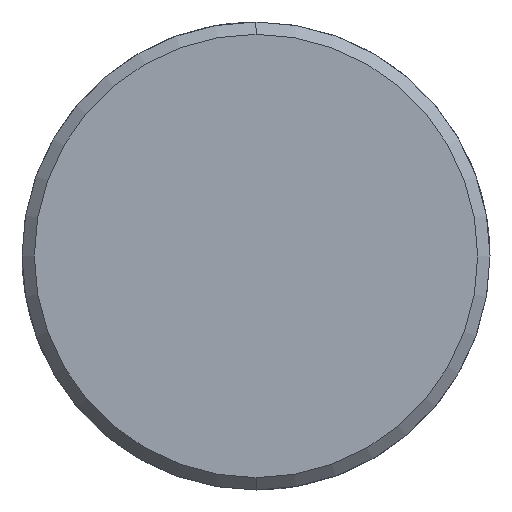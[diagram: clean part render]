
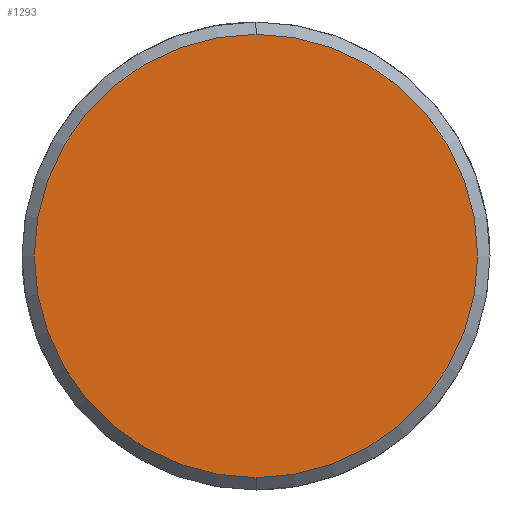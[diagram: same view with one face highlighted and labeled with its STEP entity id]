
A CAD part, left-side view. The second image highlights one B-rep face of the part: STEP entity #1293.
In plain terms, the highlighted planar face has unit normal (-1, 0, 0).
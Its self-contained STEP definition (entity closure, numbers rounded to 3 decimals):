
#1225=CARTESIAN_POINT('Vertex',(-7.,0.,-18.)) ;
#1228=CARTESIAN_POINT('Axis2P3D Location',(-7.,0.,0.)) ;
#1232=CARTESIAN_POINT('Vertex',(-7.,18.,0.)) ;
#1235=CARTESIAN_POINT('Axis2P3D Location',(-7.,0.,0.)) ;
#1239=CARTESIAN_POINT('Vertex',(-7.,0.,18.)) ;
#1261=CARTESIAN_POINT('Axis2P3D Location',(-7.,0.,0.)) ;
#1265=CARTESIAN_POINT('Vertex',(-7.,-18.,0.)) ;
#1268=CARTESIAN_POINT('Axis2P3D Location',(-7.,0.,0.)) ;
#1282=CARTESIAN_POINT('Axis2P3D Location',(-7.,0.,0.)) ;
#1229=DIRECTION('Axis2P3D Direction',(1.,0.,-0.)) ;
#1236=DIRECTION('Axis2P3D Direction',(1.,0.,-0.)) ;
#1262=DIRECTION('Axis2P3D Direction',(1.,0.,-0.)) ;
#1269=DIRECTION('Axis2P3D Direction',(1.,0.,-0.)) ;
#1283=DIRECTION('Axis2P3D Direction',(1.,0.,-0.)) ;
#1284=DIRECTION('Axis2P3D XDirection',(-0.,0.,-1.)) ;
#1230=AXIS2_PLACEMENT_3D('Circle Axis2P3D',#1228,#1229,$) ;
#1237=AXIS2_PLACEMENT_3D('Circle Axis2P3D',#1235,#1236,$) ;
#1263=AXIS2_PLACEMENT_3D('Circle Axis2P3D',#1261,#1262,$) ;
#1270=AXIS2_PLACEMENT_3D('Circle Axis2P3D',#1268,#1269,$) ;
#1285=AXIS2_PLACEMENT_3D('Plane Axis2P3D',#1282,#1283,#1284) ;
#1288=ORIENTED_EDGE('',*,*,#1234,.F.) ;
#1289=ORIENTED_EDGE('',*,*,#1272,.F.) ;
#1290=ORIENTED_EDGE('',*,*,#1267,.F.) ;
#1291=ORIENTED_EDGE('',*,*,#1241,.F.) ;
#1293=ADVANCED_FACE('351-25X66X200',(#1292),#1286,.F.) ;
#1231=CIRCLE('generated circle',#1230,18.) ;
#1238=CIRCLE('generated circle',#1237,18.) ;
#1264=CIRCLE('generated circle',#1263,18.) ;
#1271=CIRCLE('generated circle',#1270,18.) ;
#1234=EDGE_CURVE('',#1226,#1233,#1231,.T.) ;
#1241=EDGE_CURVE('',#1233,#1240,#1238,.T.) ;
#1267=EDGE_CURVE('',#1240,#1266,#1264,.T.) ;
#1272=EDGE_CURVE('',#1266,#1226,#1271,.T.) ;
#1287=EDGE_LOOP('',(#1288,#1289,#1290,#1291)) ;
#1292=FACE_OUTER_BOUND('',#1287,.T.) ;
#1286=PLANE('Plane',#1285) ;
#1226=VERTEX_POINT('',#1225) ;
#1233=VERTEX_POINT('',#1232) ;
#1240=VERTEX_POINT('',#1239) ;
#1266=VERTEX_POINT('',#1265) ;
